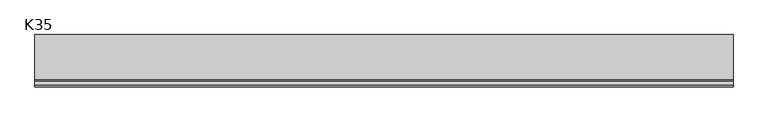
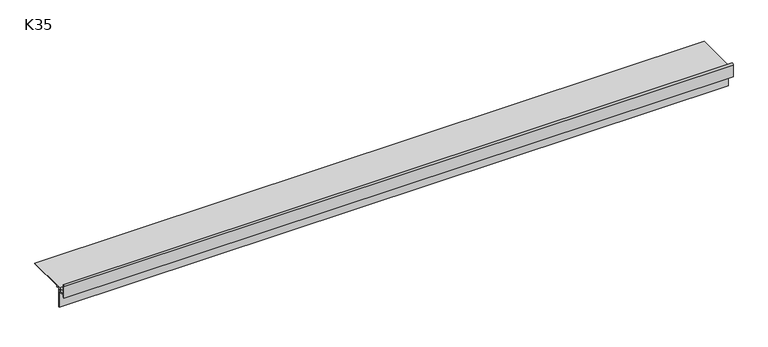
"""IFC4 building model written with IfcOpenShell, lengths in millimetres: proxy geometry, K35 Profil okapowy prosty z rynną : K35."""

from ifc_helpers import new_model, si_unit, point, frame, frame_2d, origin, place, context, project, spatial, polyline, circle_curve, trimmed, segment, composite_curve, outline, extrude, source, transform, mapped, element, save


def k35_ef854efd(model_context):
    return source(origin(), model_context, "Body", "SweptSolid", [
        extrude(outline(composite_curve([segment(polyline([(-0.0010677, 0.0), (-0.0010677, -1.8358001)]), True, "CONTINUOUS"), segment(trimmed(circle_curve(frame_2d((-0.0010677, -2.8358001)), 1.0), [point((-0.0010677, -1.8358001))], [point((-1.0010677, -2.8358001))], True, "CARTESIAN"), True, "CONTINUOUS"), segment(polyline([(-1.0010677, -2.8358001), (-1.0010677, -19.6829113), (13.1366439, -19.6829113), (13.1366439, -14.9), (11.3457599, -14.9)]), True, "CONTINUOUS"), segment(trimmed(circle_curve(frame_2d((11.3457599, -16.3022282)), 1.4022282), [point((11.3457599, -14.9))], [point((9.9435317, -16.3022282))], True, "CARTESIAN"), True, "CONTINUOUS"), segment(polyline([(9.9435317, -16.3022282), (8.4405044, -16.3022282)]), True, "CONTINUOUS"), segment(trimmed(circle_curve(frame_2d((11.0612599, -16.1266316)), 2.6266316), [point((8.4405044, -16.3022282))], [point((11.0612599, -13.5))], False, "CARTESIAN"), True, "CONTINUOUS"), segment(polyline([(11.0612599, -13.5), (95.0989323, -13.5), (95.0989323, -14.9), (21.5989323, -14.9), (21.5989323, -17.8969711), (20.0989323, -17.8969711), (20.0989323, -14.9), (15.0989323, -14.9), (15.0989323, -54.7), (13.5989323, -54.7), (13.5989323, -21.1829113), (10.049712, -21.1829113), (8.5231229, -22.7095005), (8.5231229, -21.1829113), (-1.0010677, -21.1829113), (-1.0010677, -25.549015), (-2.5010677, -26.8), (-2.5010677, -2.8358001)]), True, "CONTINUOUS"), segment(trimmed(circle_curve(frame_2d((0.4087938, -2.8812097)), 2.9102158), [point((-2.5010677, -2.8358001))], [point((-0.0010677, 0.0))], False, "CARTESIAN"), True, "CONTINUOUS")], self_intersect=False)), frame((0.0, 0.0, 0.0), z_axis=(1.0, 0.0, 0.0), x_axis=(0.0, 1.0, 0.0)), (0.0, 0.0, 1.0), 1299.9999033),
    ])


if __name__ == "__main__":
    model = new_model("IFC4")
    model_context = context("Model", 3, world=origin())
    ifc_project = project(units=[si_unit("LENGTHUNIT", "METRE", prefix="MILLI")], contexts=[model_context])
    site = spatial("IfcSite", under=ifc_project)
    building = spatial("IfcBuilding", under=site)
    placement = place(None, origin())
    k35_shape = k35_ef854efd(model_context)
    element("IfcBuildingElementProxy", 1, Name="K35 Profil okapowy prosty z rynną : K35", ObjectType="K35 Profil okapowy prosty z rynną : K35", at=placement, inside=building, context=model_context, shape_type="MappedRepresentation", body=[
        mapped(k35_shape, transform((0.0, 0.0, 0.0), x_axis=(1.0, 0.0, 0.0), y_axis=(0.0, 1.0, 0.0), z_axis=(0.0, 0.0, 1.0))),
    ])
    save(model, "model.ifc")
